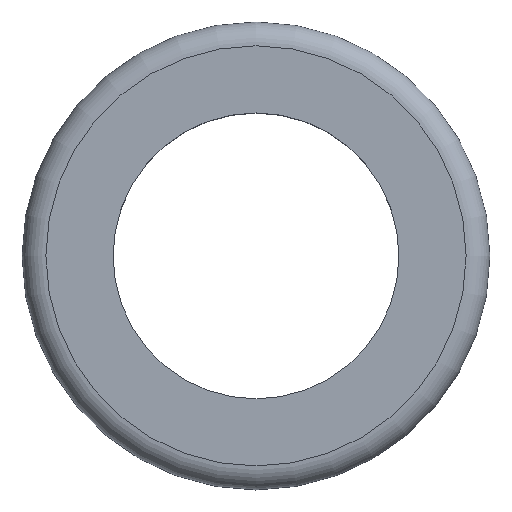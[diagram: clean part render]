
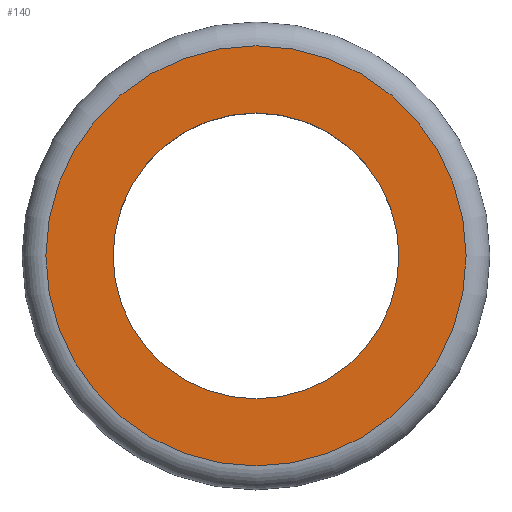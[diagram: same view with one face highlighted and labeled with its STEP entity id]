
A CAD part, top view. The second image highlights one B-rep face of the part: STEP entity #140.
In plain terms, the highlighted planar face has unit normal (0, 0, 1).
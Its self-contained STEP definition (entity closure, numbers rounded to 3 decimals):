
#31 = CYLINDRICAL_SURFACE('',#32,3.3);
#32 = AXIS2_PLACEMENT_3D('',#33,#34,#35);
#33 = CARTESIAN_POINT('',(0.,0.,1.9));
#34 = DIRECTION('',(0.,0.,1.));
#35 = DIRECTION('',(1.,0.,-0.));
#56 = VERTEX_POINT('',#57);
#57 = CARTESIAN_POINT('',(3.3,0.,3.5));
#78 = EDGE_CURVE('',#56,#56,#79,.T.);
#79 = SURFACE_CURVE('',#80,(#85,#92),.PCURVE_S1.);
#80 = CIRCLE('',#81,3.3);
#81 = AXIS2_PLACEMENT_3D('',#82,#83,#84);
#82 = CARTESIAN_POINT('',(0.,0.,3.5));
#83 = DIRECTION('',(0.,0.,1.));
#84 = DIRECTION('',(1.,0.,-0.));
#85 = PCURVE('',#31,#86);
#86 = DEFINITIONAL_REPRESENTATION('',(#87),#91);
#87 = LINE('',#88,#89);
#88 = CARTESIAN_POINT('',(0.,1.6));
#89 = VECTOR('',#90,1.);
#90 = DIRECTION('',(1.,0.));
#91 = ( GEOMETRIC_REPRESENTATION_CONTEXT(2) 
PARAMETRIC_REPRESENTATION_CONTEXT() REPRESENTATION_CONTEXT('2D SPACE',''
  ) );
#92 = PCURVE('',#93,#98);
#93 = PLANE('',#94);
#94 = AXIS2_PLACEMENT_3D('',#95,#96,#97);
#95 = CARTESIAN_POINT('',(0.,0.,3.5));
#96 = DIRECTION('',(0.,0.,1.));
#97 = DIRECTION('',(1.,0.,-0.));
#98 = DEFINITIONAL_REPRESENTATION('',(#99),#103);
#99 = CIRCLE('',#100,3.3);
#100 = AXIS2_PLACEMENT_2D('',#101,#102);
#101 = CARTESIAN_POINT('',(0.,0.));
#102 = DIRECTION('',(1.,-0.));
#103 = ( GEOMETRIC_REPRESENTATION_CONTEXT(2) 
PARAMETRIC_REPRESENTATION_CONTEXT() REPRESENTATION_CONTEXT('2D SPACE',''
  ) );
#140 = ADVANCED_FACE('',(#141,#144),#93,.T.);
#141 = FACE_BOUND('',#142,.F.);
#142 = EDGE_LOOP('',(#143));
#143 = ORIENTED_EDGE('',*,*,#78,.T.);
#144 = FACE_BOUND('',#145,.F.);
#145 = EDGE_LOOP('',(#146));
#146 = ORIENTED_EDGE('',*,*,#147,.F.);
#147 = EDGE_CURVE('',#148,#148,#150,.T.);
#148 = VERTEX_POINT('',#149);
#149 = CARTESIAN_POINT('',(4.85,0.,3.5));
#150 = SURFACE_CURVE('',#151,(#156,#163),.PCURVE_S1.);
#151 = CIRCLE('',#152,4.85);
#152 = AXIS2_PLACEMENT_3D('',#153,#154,#155);
#153 = CARTESIAN_POINT('',(0.,0.,3.5));
#154 = DIRECTION('',(0.,0.,1.));
#155 = DIRECTION('',(1.,0.,-0.));
#156 = PCURVE('',#93,#157);
#157 = DEFINITIONAL_REPRESENTATION('',(#158),#162);
#158 = CIRCLE('',#159,4.85);
#159 = AXIS2_PLACEMENT_2D('',#160,#161);
#160 = CARTESIAN_POINT('',(0.,0.));
#161 = DIRECTION('',(1.,-0.));
#162 = ( GEOMETRIC_REPRESENTATION_CONTEXT(2) 
PARAMETRIC_REPRESENTATION_CONTEXT() REPRESENTATION_CONTEXT('2D SPACE',''
  ) );
#163 = PCURVE('',#164,#169);
#164 = TOROIDAL_SURFACE('',#165,4.85,0.55);
#165 = AXIS2_PLACEMENT_3D('',#166,#167,#168);
#166 = CARTESIAN_POINT('',(0.,0.,2.95));
#167 = DIRECTION('',(0.,0.,1.));
#168 = DIRECTION('',(1.,0.,-0.));
#169 = DEFINITIONAL_REPRESENTATION('',(#170),#174);
#170 = LINE('',#171,#172);
#171 = CARTESIAN_POINT('',(0.,1.571));
#172 = VECTOR('',#173,1.);
#173 = DIRECTION('',(1.,0.));
#174 = ( GEOMETRIC_REPRESENTATION_CONTEXT(2) 
PARAMETRIC_REPRESENTATION_CONTEXT() REPRESENTATION_CONTEXT('2D SPACE',''
  ) );
